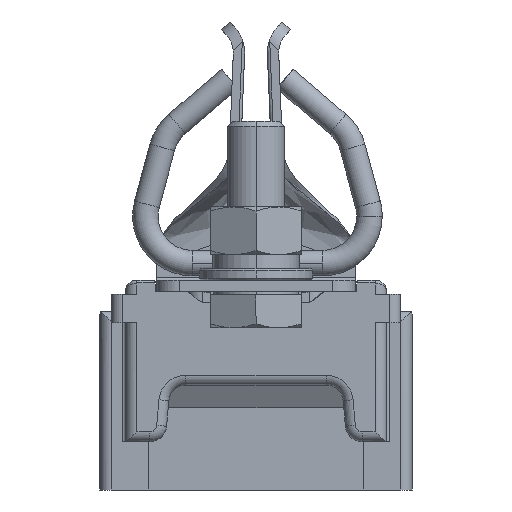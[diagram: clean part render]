
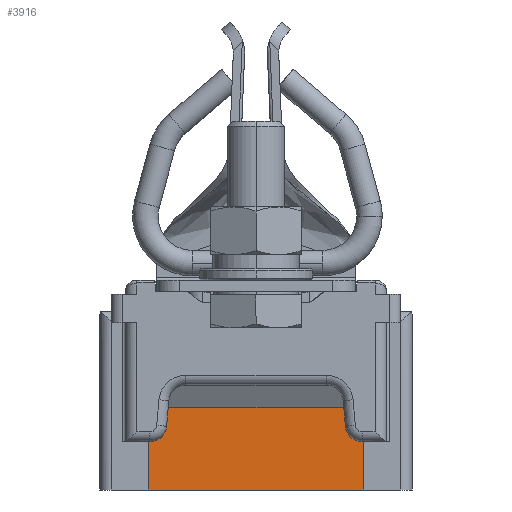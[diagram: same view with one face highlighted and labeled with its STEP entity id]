
A CAD part, left-side view. The second image highlights one B-rep face of the part: STEP entity #3916.
In plain terms, the highlighted planar face has unit normal (-1, 0, 0).
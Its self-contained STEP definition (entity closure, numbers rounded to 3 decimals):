
#344 = DIRECTION ( 'NONE',  ( 0., 0., 1. ) ) ;
#490 = DIRECTION ( 'NONE',  ( 0., 0., -1. ) ) ;
#767 = ORIENTED_EDGE ( 'NONE', *, *, #17125, .T. ) ;
#1203 = CARTESIAN_POINT ( 'NONE',  ( -33., 21., 0. ) ) ;
#3146 = EDGE_CURVE ( 'NONE', #19506, #21190, #19323, .T. ) ;
#3916 = ADVANCED_FACE ( 'NONE', ( #14414 ), #7058, .F. ) ;
#3937 = VECTOR ( 'NONE', #6915, 1000. ) ;
#4275 = VERTEX_POINT ( 'NONE', #1203 ) ;
#5347 = DIRECTION ( 'NONE',  ( 0., 1., 0. ) ) ;
#5535 = LINE ( 'NONE', #16538, #20953 ) ;
#5998 = ORIENTED_EDGE ( 'NONE', *, *, #10940, .T. ) ;
#6595 = ORIENTED_EDGE ( 'NONE', *, *, #10448, .F. ) ;
#6915 = DIRECTION ( 'NONE',  ( 0., 0., -1. ) ) ;
#7058 = PLANE ( 'NONE',  #14916 ) ;
#8505 = CARTESIAN_POINT ( 'NONE',  ( -33., 21., 7. ) ) ;
#9828 = CARTESIAN_POINT ( 'NONE',  ( -33., -21., 14.5 ) ) ;
#10396 = CARTESIAN_POINT ( 'NONE',  ( -33., 21., 14.5 ) ) ;
#10448 = EDGE_CURVE ( 'NONE', #21190, #4275, #10679, .T. ) ;
#10679 = LINE ( 'NONE', #10769, #11751 ) ;
#10735 = DIRECTION ( 'NONE',  ( 1., 0., 0. ) ) ;
#10769 = CARTESIAN_POINT ( 'NONE',  ( -33., 0., 0. ) ) ;
#10940 = EDGE_CURVE ( 'NONE', #21163, #4275, #18512, .T. ) ;
#11751 = VECTOR ( 'NONE', #5347, 1000. ) ;
#14414 = FACE_OUTER_BOUND ( 'NONE', #17646, .T. ) ;
#14916 = AXIS2_PLACEMENT_3D ( 'NONE', #21095, #10735, #344 ) ;
#16204 = ORIENTED_EDGE ( 'NONE', *, *, #3146, .F. ) ;
#16538 = CARTESIAN_POINT ( 'NONE',  ( -33., -23., 14.5 ) ) ;
#17125 = EDGE_CURVE ( 'NONE', #19506, #21163, #5535, .T. ) ;
#17646 = EDGE_LOOP ( 'NONE', ( #767, #5998, #6595, #16204 ) ) ;
#17677 = CARTESIAN_POINT ( 'NONE',  ( -33., -21., 7. ) ) ;
#18512 = LINE ( 'NONE', #8505, #3937 ) ;
#18784 = VECTOR ( 'NONE', #490, 1000. ) ;
#19323 = LINE ( 'NONE', #17677, #18784 ) ;
#19506 = VERTEX_POINT ( 'NONE', #9828 ) ;
#20098 = DIRECTION ( 'NONE',  ( 0., 1., 0. ) ) ;
#20953 = VECTOR ( 'NONE', #20098, 1000. ) ;
#21095 = CARTESIAN_POINT ( 'NONE',  ( -33., 0., 7. ) ) ;
#21163 = VERTEX_POINT ( 'NONE', #10396 ) ;
#21190 = VERTEX_POINT ( 'NONE', #22350 ) ;
#22350 = CARTESIAN_POINT ( 'NONE',  ( -33., -21., 0. ) ) ;
